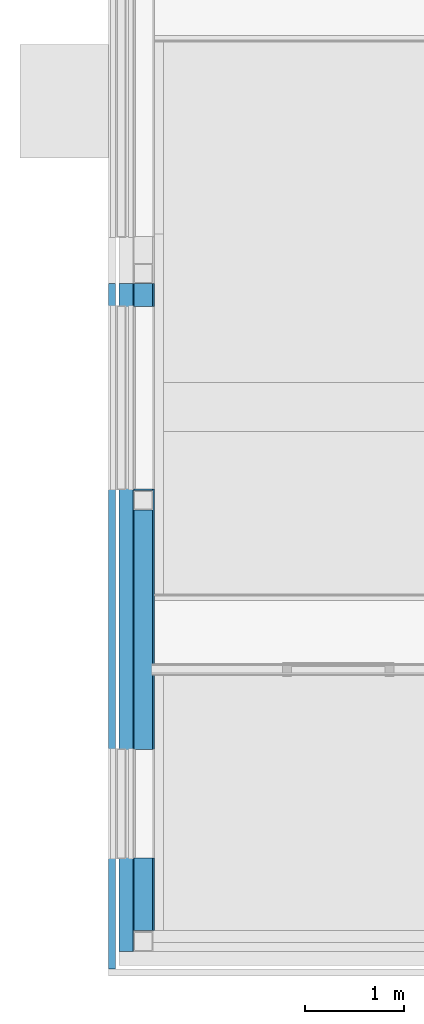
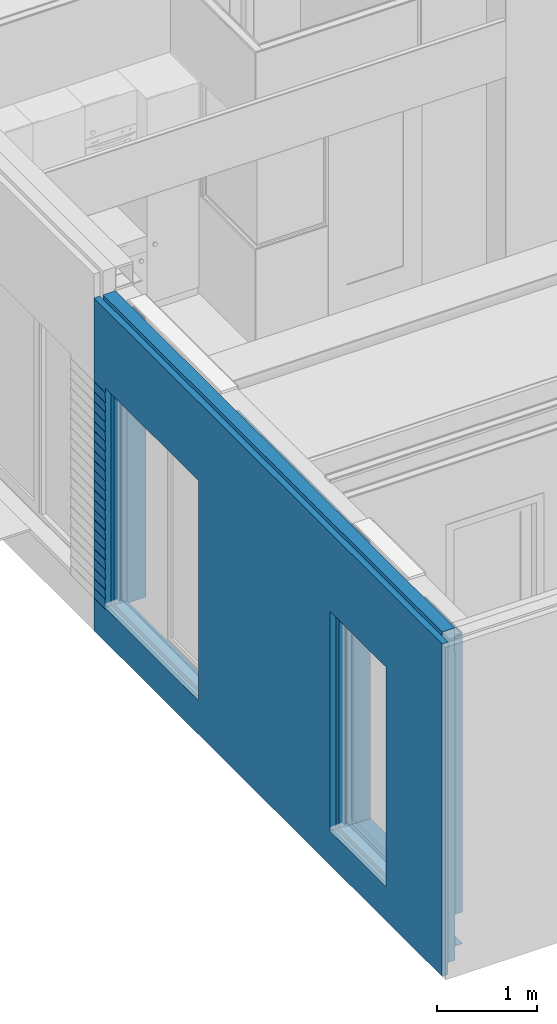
# One storey, part 36 of 165: 3 building element parts, 2 openings, 1 element without a shape of its own.
"""IFC2X3 building model written with IfcOpenShell, lengths in millimetres."""

from ifc_helpers import new_model, entity, si_unit, converted_unit, derived_unit, money_unit, direction, frame, origin_with_axes, place, context, subcontext, project, spatial, faceted_brep, material, type_object, element, aggregate, save


model = new_model("IFC2X3")

# Units and contexts
model_context = context("Model", 3, precision=0.01, world=origin_with_axes(), true_north=direction((0.0, 1.0)))
body_context = subcontext(model_context, "Body", "Model", "MODEL_VIEW")
ifc_project = project(units=[si_unit("LENGTHUNIT", "METRE", prefix="MILLI"), si_unit("AREAUNIT", "SQUARE_METRE"), si_unit("VOLUMEUNIT", "CUBIC_METRE"), converted_unit("PLANEANGLEUNIT", "DEGREE", entity("IfcPlaneAngleMeasure", 0.0174532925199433), si_unit("PLANEANGLEUNIT", "RADIAN"), dimensions=[0, 0, 0, 0, 0, 0, 0]), money_unit("EUR"), converted_unit("TIMEUNIT", "Year", entity("IfcTimeMeasure", 31556926.0), si_unit("TIMEUNIT", "SECOND"), dimensions=[0, 0, 1, 0, 0, 0, 0]), si_unit("MASSUNIT", "GRAM", prefix="KILO"), si_unit("THERMODYNAMICTEMPERATUREUNIT", "DEGREE_CELSIUS"), si_unit("LUMINOUSINTENSITYUNIT", "LUMEN"), si_unit("ENERGYUNIT", "JOULE", prefix="MEGA"), derived_unit("THERMALCONDUCTANCEUNIT", [(si_unit("POWERUNIT", "WATT"), 1), (si_unit("LENGTHUNIT", "METRE"), -1), (si_unit("THERMODYNAMICTEMPERATUREUNIT", "KELVIN"), -1)]), derived_unit("SPECIFICHEATCAPACITYUNIT", [(si_unit("ENERGYUNIT", "JOULE"), 1), (si_unit("MASSUNIT", "GRAM", prefix="KILO"), -1), (si_unit("THERMODYNAMICTEMPERATUREUNIT", "KELVIN"), -1)]), derived_unit("MASSDENSITYUNIT", [(si_unit("MASSUNIT", "GRAM", prefix="KILO"), 1), (si_unit("VOLUMEUNIT", "CUBIC_METRE"), -1)])], contexts=[model_context])

# Site, building, storey
site_placement = place(None, origin_with_axes())
site = spatial("IfcSite", under=ifc_project, at=site_placement, Name="Site", CompositionType="ELEMENT")
building_placement = place(site_placement, origin_with_axes())
building = spatial("IfcBuilding", under=site, at=building_placement, Name="Naam gebouw", CompositionType="ELEMENT")
storey_placement = place(building_placement, origin_with_axes())
storey = spatial("IfcBuildingStorey", under=building, at=storey_placement, Name="Begane grond", CompositionType="ELEMENT", Elevation=0.0)

# Wall, openings, building element parts
wall_type = type_object("IfcWallType", Name="21 Buitenwand spouwmuur 464", PredefinedType="NOTDEFINED")
wall_placement = place(storey_placement, frame((0.0, 0.0, -485.0), z_axis=(0.0, 0.0, 1.0), x_axis=(0.0, 1.0, 0.0)))
wall = element("IfcWall", 1, at=wall_placement, inside=storey, type_object=wall_type, Name="21_Wand-x")
opening_1_placement = place(wall_placement, frame((5619.999999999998, 0.0, 475.0), z_axis=(0.0, 0.0, 1.0), x_axis=(1.0, 0.0, 0.0)))
element("IfcOpeningElement", 2, at=opening_1_placement, cuts=wall, Name="_Merk AG", context=body_context, shape_type="Brep", body=[
    faceted_brep([(924.9999999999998, 0.0, -60.00000000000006), (924.9999999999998, 0.0, 2620.0), (924.9999999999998, 0.0, 3620.0), (924.9999999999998, -215.0000000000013, 3620.0), (924.9999999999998, -215.0000000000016, -1060.0), (924.9999999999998, 0.0, -1060.0), (924.9999999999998, 72.00000000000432, -60.00000000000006), (924.9999999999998, 72.00000000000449, 2620.0), (-924.9999999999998, 0.0, 2620.0), (-924.9999999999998, 0.0, 3620.0), (-924.9999999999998, -215.0000000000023, 3620.0), (-924.9999999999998, -215.0000000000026, -1060.0), (-924.9999999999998, 0.0, -1060.0), (-924.9999999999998, 0.0, -60.00000000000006), (-924.9999999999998, 72.00000000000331, -60.00000000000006), (934.9999999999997, 72.00000000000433, -60.00000000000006), (934.9999999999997, 72.0000000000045, 2620.0), (-924.9999999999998, 72.00000000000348, 2620.0), (-934.9999999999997, 72.0000000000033, -60.00000000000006), (-934.9999999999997, 251.0000000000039, -60.00000000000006), (934.9999999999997, 251.0000000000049, -60.00000000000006), (934.9999999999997, 251.0000000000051, 2620.0), (-934.9999999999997, 251.0000000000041, 2620.0), (-934.9999999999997, 72.0000000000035, 2620.0)], [[[0, 1, 2, 3, 4, 5]], [[1, 0, 6, 7]], [[1, 8, 9, 2]], [[2, 9, 10, 3]], [[10, 11, 4, 3]], [[12, 5, 4, 11]], [[13, 0, 5, 12]], [[0, 13, 14, 6]], [[7, 6, 15, 16]], [[8, 1, 7, 17]], [[8, 13, 12, 11, 10, 9]], [[13, 8, 17, 14]], [[6, 14, 18, 19, 20, 15]], [[16, 15, 20, 21]], [[17, 7, 16, 21, 22, 23]], [[14, 17, 23, 18]], [[18, 23, 22, 19]], [[21, 20, 19, 22]]]),
])
opening_2_placement = place(wall_placement, frame((1500.0, 0.0, 475.0), z_axis=(0.0, 0.0, 1.0), x_axis=(1.0, 0.0, 0.0)))
element("IfcOpeningElement", 3, at=opening_2_placement, cuts=wall, Name="_Merk AD", context=body_context, shape_type="Brep", body=[
    faceted_brep([(549.9999999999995, 0.0, -60.00000000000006), (549.9999999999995, 0.0, 2620.000000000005), (549.9999999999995, 0.0, 3620.000000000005), (549.9999999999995, -215.0000000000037, 3620.000000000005), (549.9999999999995, -215.0000000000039, -60.00000000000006), (549.9999999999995, 72.0000000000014, -60.00000000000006), (549.9999999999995, 72.00000000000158, 2620.000000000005), (-550.0, 0.0, 2620.000000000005), (-550.0, 0.0, 3620.000000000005), (-549.9999999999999, -215.0000000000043, 3620.000000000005), (-549.9999999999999, -215.0000000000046, -60.00000000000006), (-550.0, 0.0, -60.00000000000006), (-550.0, 72.00000000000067, -60.00000000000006), (559.9999999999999, 72.00000000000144, -60.00000000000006), (559.9999999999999, 72.00000000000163, 2620.000000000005), (-550.0, 72.00000000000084, 2620.000000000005), (-560.0, 72.00000000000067, -60.00000000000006), (-560.0000000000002, 251.0000000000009, -60.00000000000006), (559.9999999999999, 251.0000000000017, -60.00000000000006), (559.9999999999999, 251.0000000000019, 2620.000000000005), (-560.0000000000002, 251.0000000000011, 2620.000000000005), (-560.0, 72.00000000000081, 2620.000000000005)], [[[0, 1, 2, 3, 4]], [[1, 0, 5, 6]], [[1, 7, 8, 2]], [[2, 8, 9, 3]], [[9, 10, 4, 3]], [[0, 4, 10, 11, 12, 5]], [[6, 5, 13, 14]], [[7, 1, 6, 15]], [[7, 11, 10, 9, 8]], [[11, 7, 15, 12]], [[5, 12, 16, 17, 18, 13]], [[14, 13, 18, 19]], [[15, 6, 14, 19, 20, 21]], [[12, 15, 21, 16]], [[16, 21, 20, 17]], [[19, 18, 17, 20]]]),
])
ifc_material_1 = material(Name="Isolatie - Steenwol zacht")
building_element_part_1_placement = place(wall_placement, origin_with_axes())
building_element_part_1 = element("IfcBuildingElementPart", 4, at=building_element_part_1_placement, material=ifc_material_1, Name="Isolatie - Steenwol zacht", context=body_context, shape_type="Brep", body=[
    faceted_brep([(2060.0, 72.00000000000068, 414.9999999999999), (2049.999999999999, 72.00000000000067, 414.9999999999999), (2049.999999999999, 72.00000000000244, 3095.000000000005), (2060.0, 72.00000000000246, 3095.000000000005), (939.9999999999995, 71.99999999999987, 414.9999999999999), (949.9999999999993, 71.99999999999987, 414.9999999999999), (2060.0, 145.0000000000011, 414.9999999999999), (939.9999999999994, 145.0000000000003, 414.9999999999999), (2049.999999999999, 0.0, 414.9999999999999), (2049.999999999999, 0.0, 3095.000000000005), (949.9999999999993, 72.00000000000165, 3095.000000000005), (939.9999999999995, 72.00000000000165, 3095.000000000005), (939.9999999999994, 145.0000000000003, 3095.000000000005), (2060.0, 145.0000000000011, 3095.000000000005), (949.9999999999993, 0.0, 414.9999999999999), (6779.999999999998, 145.0000000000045, 4055.0), (6779.999999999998, 145.0000000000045, 0.0), (0.0, 144.9999999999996, 0.0), (0.0, 144.9999999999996, 4055.0), (6554.999999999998, 145.0000000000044, 3095.0), (4684.999999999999, 145.000000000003, 3095.0), (4684.999999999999, 145.000000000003, 414.9999999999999), (6554.999999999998, 145.0000000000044, 414.9999999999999), (0.0, 0.0, 0.0), (6779.999999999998, 0.0, 0.0), (6779.999999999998, 0.0, 3775.0), (-1.385558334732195e-10, 0.0, 3775.0), (4694.999999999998, 0.0, 3095.0), (6544.999999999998, 0.0, 3095.0), (6544.999999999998, 0.0, 414.9999999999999), (4694.999999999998, 0.0, 414.9999999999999), (949.9999999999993, 0.0, 3095.000000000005), (6779.999999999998, 1.000000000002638, 4055.0), (6779.999999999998, 1.000000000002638, 3790.0), (6779.999999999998, 16.0000000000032, 3790.0), (6779.999999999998, 16.0000000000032, 3775.0), (-1.403439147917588e-10, 15.99999999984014, 3775.0), (-1.403439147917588e-10, 15.99999999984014, 3790.0), (-1.403329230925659e-10, 0.99999999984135, 3790.0), (-1.403329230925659e-10, 0.99999999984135, 4055.0), (6554.999999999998, 72.00000000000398, 3095.0), (6544.999999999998, 72.00000000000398, 3095.0), (4694.999999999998, 72.00000000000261, 3095.0), (4684.999999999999, 72.0000000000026, 3095.0), (4684.999999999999, 72.0000000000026, 414.9999999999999), (4694.999999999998, 72.00000000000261, 414.9999999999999), (6544.999999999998, 72.00000000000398, 414.9999999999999), (6554.999999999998, 72.00000000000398, 414.9999999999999)], [[[0, 1, 2, 3]], [[4, 5, 1, 0, 6, 7]], [[1, 8, 9, 2]], [[3, 2, 10, 11, 12, 13]], [[13, 6, 0, 3]], [[11, 10, 5, 4]], [[5, 14, 8, 1]], [[15, 16, 17, 18], [19, 20, 21, 22], [7, 6, 13, 12]], [[7, 12, 11, 4]], [[23, 24, 25, 26], [27, 28, 29, 30], [8, 14, 31, 9]], [[2, 9, 31, 10]], [[10, 31, 14, 5]], [[25, 24, 16, 15, 32, 33, 34, 35]], [[16, 24, 23, 17]], [[18, 17, 23, 26, 36, 37, 38, 39]], [[15, 18, 39, 32]], [[40, 41, 42, 43, 20, 19]], [[43, 44, 21, 20]], [[44, 45, 46, 47, 22, 21]], [[47, 40, 19, 22]], [[35, 36, 26, 25]], [[27, 42, 41, 28]], [[28, 41, 46, 29]], [[29, 46, 45, 30]], [[30, 45, 42, 27]], [[39, 38, 33, 32]], [[38, 37, 34, 33]], [[37, 36, 35, 34]], [[41, 40, 47, 46]], [[45, 44, 43, 42]]]),
])
ifc_material_2 = material(Name="Steen - Baksteen")
building_element_part_2_placement = place(wall_placement, origin_with_axes())
building_element_part_2 = element("IfcBuildingElementPart", 5, at=building_element_part_2_placement, material=ifc_material_2, Name="Steen - Baksteen", context=body_context, shape_type="Brep", body=[
    faceted_brep([(6779.999999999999, 250.0000000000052, 3035.000036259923), (6779.999999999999, 245.0000077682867, 3035.000036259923), (6779.999999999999, 245.0000077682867, 3095.000008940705), (6779.999999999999, 250.0000000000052, 3095.000008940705), (6779.999999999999, 250.0000000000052, 4055.0), (6779.999999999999, 180.0000000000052, 4055.0), (6779.999999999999, 180.000000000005, 0.0), (6779.999999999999, 250.000000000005, 0.0), (6779.999999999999, 250.000000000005, 395.0000313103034), (6779.999999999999, 245.0000077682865, 395.0000313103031), (6779.999999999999, 245.0000077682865, 465.0000396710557), (6779.999999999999, 250.000000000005, 465.0000396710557), (6779.999999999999, 250.0000000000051, 514.9999766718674), (6779.999999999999, 245.0000077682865, 514.9999766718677), (6779.999999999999, 245.0000077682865, 584.999944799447), (6779.999999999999, 250.0000000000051, 584.999944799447), (6779.999999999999, 250.0000000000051, 635.0000427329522), (6779.999999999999, 245.0000077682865, 635.0000427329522), (6779.999999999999, 245.0000077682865, 705.0000108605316), (6779.999999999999, 250.0000000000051, 705.0000108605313), (6779.999999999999, 250.0000000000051, 754.9999478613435), (6779.999999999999, 245.0000077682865, 754.9999478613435), (6779.999999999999, 245.0000077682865, 824.9999562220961), (6779.999999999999, 250.0000000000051, 824.9999562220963), (6779.999999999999, 250.0000000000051, 875.0000139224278), (6779.999999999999, 245.0000077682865, 875.0000139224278), (6779.999999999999, 245.0000077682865, 945.0000222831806), (6779.999999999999, 250.0000000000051, 945.0000222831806), (6779.999999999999, 250.0000000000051, 994.999999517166), (6779.999999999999, 245.0000077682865, 994.9999995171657), (6779.999999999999, 245.0000077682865, 1064.999927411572), (6779.999999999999, 250.0000000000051, 1064.999927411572), (6779.999999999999, 250.0000000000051, 1115.000025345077), (6779.999999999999, 245.0000077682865, 1115.000025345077), (6779.999999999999, 245.0000077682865, 1184.999993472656), (6779.999999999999, 250.0000000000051, 1184.999993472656), (6779.999999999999, 250.0000000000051, 1234.999970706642), (6779.999999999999, 245.0000077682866, 1234.999970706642), (6779.999999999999, 245.0000077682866, 1304.999979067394), (6779.999999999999, 250.0000000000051, 1304.999979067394), (6779.999999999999, 250.0000000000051, 1354.999996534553), (6779.999999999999, 245.0000077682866, 1354.999996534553), (6779.999999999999, 245.0000077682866, 1425.000004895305), (6779.999999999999, 250.0000000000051, 1425.000004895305), (6779.999999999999, 250.0000000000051, 1474.99998212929), (6779.999999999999, 245.0000077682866, 1474.999982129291), (6779.999999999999, 245.0000077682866, 1544.99995025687), (6779.999999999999, 250.0000000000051, 1544.99995025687), (6779.999999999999, 250.0000000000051, 1595.000007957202), (6779.999999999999, 245.0000077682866, 1595.000007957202), (6779.999999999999, 245.0000077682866, 1664.999976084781), (6779.999999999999, 250.0000000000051, 1664.999976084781), (6779.999999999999, 250.0000000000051, 1714.999993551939), (6779.999999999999, 245.0000077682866, 1714.999993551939), (6779.999999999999, 245.0000077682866, 1784.999961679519), (6779.999999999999, 250.0000000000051, 1784.999961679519), (6779.999999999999, 250.0000000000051, 1835.000019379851), (6779.999999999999, 245.0000077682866, 1835.000019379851), (6779.999999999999, 245.0000077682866, 1905.000027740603), (6779.999999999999, 250.0000000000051, 1905.000027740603), (6779.999999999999, 250.0000000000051, 1954.999964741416), (6779.999999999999, 245.0000077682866, 1954.999964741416), (6779.999999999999, 245.0000077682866, 2024.999973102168), (6779.999999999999, 250.0000000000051, 2024.999973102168), (6779.999999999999, 250.0000000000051, 2075.0000308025), (6779.999999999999, 245.0000077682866, 2075.0000308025), (6779.999999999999, 245.0000077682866, 2144.99999893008), (6779.999999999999, 250.0000000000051, 2144.99999893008), (6779.999999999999, 250.0000000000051, 2194.999976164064), (6779.999999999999, 245.0000077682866, 2194.999976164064), (6779.999999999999, 245.0000077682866, 2264.999944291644), (6779.999999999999, 250.0000000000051, 2264.999944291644), (6779.999999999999, 250.0000000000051, 2315.000001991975), (6779.999999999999, 245.0000077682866, 2315.000001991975), (6779.999999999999, 245.0000077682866, 2385.000010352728), (6779.999999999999, 250.0000000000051, 2385.000010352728), (6779.999999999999, 250.0000000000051, 2434.999987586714), (6779.999999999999, 245.0000077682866, 2434.999987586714), (6779.999999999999, 245.0000077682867, 2504.999995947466), (6779.999999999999, 250.0000000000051, 2504.999995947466), (6779.999999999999, 250.0000000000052, 2555.000013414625), (6779.999999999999, 245.0000077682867, 2555.000013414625), (6779.999999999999, 245.0000077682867, 2625.000021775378), (6779.999999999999, 250.0000000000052, 2625.000021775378), (6779.999999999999, 250.0000000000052, 2674.999999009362), (6779.999999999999, 245.0000077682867, 2674.999999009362), (6779.999999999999, 245.0000077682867, 2744.999967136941), (6779.999999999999, 250.0000000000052, 2744.999967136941), (6779.999999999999, 250.0000000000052, 2795.000024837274), (6779.999999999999, 245.0000077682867, 2795.000024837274), (6779.999999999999, 245.0000077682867, 2864.999992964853), (6779.999999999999, 250.0000000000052, 2864.999992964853), (6779.999999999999, 250.0000000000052, 2914.999970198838), (6779.999999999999, 245.0000077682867, 2914.999970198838), (6779.999999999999, 245.0000077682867, 2984.999978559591), (6779.999999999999, 250.0000000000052, 2984.999978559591), (6554.999999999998, 250.000000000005, 3035.000036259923), (6554.999999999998, 245.0000077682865, 3035.000036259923), (6554.999999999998, 245.0000077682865, 3095.000008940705), (6554.999999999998, 250.000000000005, 3095.000008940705), (6554.999999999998, 180.000000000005, 3095.0), (4684.999999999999, 180.0000000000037, 3095.0), (4684.999999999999, 250.0000000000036, 3095.0), (4684.999999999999, 250.0000000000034, 414.9999999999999), (6544.999999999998, 250.0000000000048, 414.9999999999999), (6544.999999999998, 250.0000000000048, 395.0000313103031), (-180.0000000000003, 249.9999999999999, 0.0), (-180.0000000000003, 250.0000000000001, 4055.0), (939.9999999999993, 250.0000000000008, 3095.000000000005), (939.9999999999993, 250.0000000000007, 414.9999999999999), (2060.0, 250.0000000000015, 414.9999999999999), (2060.0, 250.0000000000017, 3095.000000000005), (-180.0000000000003, 180.0000000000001, 4055.0), (-180.0000000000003, 179.9999999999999, 0.0), (4684.999999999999, 180.0000000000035, 414.9999999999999), (6554.999999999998, 180.0000000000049, 414.9999999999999), (2060.0, 180.0000000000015, 414.9999999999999), (939.9999999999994, 180.0000000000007, 414.9999999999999), (939.9999999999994, 180.0000000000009, 3095.000000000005), (2060.0, 180.0000000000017, 3095.000000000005), (6544.999999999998, 245.0000077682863, 395.0000313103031), (6544.999999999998, 245.0000077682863, 414.9999999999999), (6554.999999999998, 245.0000077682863, 414.9999999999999), (6554.999999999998, 245.0000077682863, 465.0000396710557), (6554.999999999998, 250.0000000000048, 465.0000396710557), (6554.999999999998, 250.0000000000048, 514.9999766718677), (6554.999999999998, 245.0000077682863, 514.9999766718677), (6554.999999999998, 245.0000077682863, 584.999944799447), (6554.999999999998, 250.0000000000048, 584.999944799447), (6554.999999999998, 250.0000000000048, 635.0000427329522), (6554.999999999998, 245.0000077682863, 635.0000427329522), (6554.999999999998, 245.0000077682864, 705.0000108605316), (6554.999999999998, 250.0000000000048, 705.0000108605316), (6554.999999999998, 250.0000000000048, 754.9999478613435), (6554.999999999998, 245.0000077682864, 754.9999478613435), (6554.999999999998, 245.0000077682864, 824.9999562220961), (6554.999999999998, 250.0000000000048, 824.9999562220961), (6554.999999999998, 250.0000000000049, 875.0000139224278), (6554.999999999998, 245.0000077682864, 875.0000139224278), (6554.999999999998, 245.0000077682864, 945.0000222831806), (6554.999999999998, 250.0000000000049, 945.0000222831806), (6554.999999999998, 250.0000000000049, 994.9999995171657), (6554.999999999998, 245.0000077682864, 994.9999995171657), (6554.999999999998, 245.0000077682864, 1064.999927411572), (6554.999999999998, 250.0000000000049, 1064.999927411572), (6554.999999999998, 250.0000000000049, 1115.000025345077), (6554.999999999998, 245.0000077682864, 1115.000025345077), (6554.999999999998, 245.0000077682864, 1184.999993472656), (6554.999999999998, 250.0000000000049, 1184.999993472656), (6554.999999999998, 250.0000000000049, 1234.999970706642), (6554.999999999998, 245.0000077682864, 1234.999970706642), (6554.999999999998, 245.0000077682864, 1304.999979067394), (6554.999999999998, 250.0000000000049, 1304.999979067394), (6554.999999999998, 250.0000000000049, 1354.999996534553), (6554.999999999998, 245.0000077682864, 1354.999996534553), (6554.999999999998, 245.0000077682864, 1425.000004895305), (6554.999999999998, 250.0000000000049, 1425.000004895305), (6554.999999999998, 250.0000000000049, 1474.999982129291), (6554.999999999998, 245.0000077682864, 1474.999982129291), (6554.999999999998, 245.0000077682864, 1544.99995025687), (6554.999999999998, 250.0000000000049, 1544.99995025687), (6554.999999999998, 250.0000000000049, 1595.000007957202), (6554.999999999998, 245.0000077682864, 1595.000007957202), (6554.999999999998, 245.0000077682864, 1664.999976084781), (6554.999999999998, 250.0000000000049, 1664.999976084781), (6554.999999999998, 250.0000000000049, 1714.999993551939), (6554.999999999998, 245.0000077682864, 1714.999993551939), (6554.999999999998, 245.0000077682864, 1784.999961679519), (6554.999999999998, 250.0000000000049, 1784.999961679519), (6554.999999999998, 250.0000000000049, 1835.000019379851), (6554.999999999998, 245.0000077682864, 1835.000019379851), (6554.999999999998, 245.0000077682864, 1905.000027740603), (6554.999999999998, 250.0000000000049, 1905.000027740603), (6554.999999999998, 250.0000000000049, 1954.999964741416), (6554.999999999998, 245.0000077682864, 1954.999964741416), (6554.999999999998, 245.0000077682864, 2024.999973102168), (6554.999999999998, 250.0000000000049, 2024.999973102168), (6554.999999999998, 250.0000000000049, 2075.0000308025), (6554.999999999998, 245.0000077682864, 2075.0000308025), (6554.999999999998, 245.0000077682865, 2144.99999893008), (6554.999999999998, 250.0000000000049, 2144.99999893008), (6554.999999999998, 250.0000000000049, 2194.999976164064), (6554.999999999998, 245.0000077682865, 2194.999976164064), (6554.999999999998, 245.0000077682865, 2264.999944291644), (6554.999999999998, 250.0000000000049, 2264.999944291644), (6554.999999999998, 250.0000000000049, 2315.000001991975), (6554.999999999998, 245.0000077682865, 2315.000001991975), (6554.999999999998, 245.0000077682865, 2385.000010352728), (6554.999999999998, 250.0000000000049, 2385.000010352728), (6554.999999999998, 250.0000000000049, 2434.999987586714), (6554.999999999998, 245.0000077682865, 2434.999987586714), (6554.999999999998, 245.0000077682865, 2504.999995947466), (6554.999999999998, 250.0000000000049, 2504.999995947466), (6554.999999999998, 250.0000000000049, 2555.000013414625), (6554.999999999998, 245.0000077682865, 2555.000013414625), (6554.999999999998, 245.0000077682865, 2625.000021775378), (6554.999999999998, 250.0000000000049, 2625.000021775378), (6554.999999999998, 250.000000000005, 2674.999999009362), (6554.999999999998, 245.0000077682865, 2674.999999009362), (6554.999999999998, 245.0000077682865, 2744.999967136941), (6554.999999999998, 250.000000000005, 2744.999967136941), (6554.999999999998, 250.000000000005, 2795.000024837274), (6554.999999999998, 245.0000077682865, 2795.000024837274), (6554.999999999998, 245.0000077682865, 2864.999992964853), (6554.999999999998, 250.000000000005, 2864.999992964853), (6554.999999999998, 250.000000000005, 2914.999970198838), (6554.999999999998, 245.0000077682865, 2914.999970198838), (6554.999999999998, 245.0000077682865, 2984.999978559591), (6554.999999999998, 250.000000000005, 2984.999978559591)], [[[0, 1, 2, 3, 4, 5, 6, 7, 8, 9, 10, 11, 12, 13, 14, 15, 16, 17, 18, 19, 20, 21, 22, 23, 24, 25, 26, 27, 28, 29, 30, 31, 32, 33, 34, 35, 36, 37, 38, 39, 40, 41, 42, 43, 44, 45, 46, 47, 48, 49, 50, 51, 52, 53, 54, 55, 56, 57, 58, 59, 60, 61, 62, 63, 64, 65, 66, 67, 68, 69, 70, 71, 72, 73, 74, 75, 76, 77, 78, 79, 80, 81, 82, 83, 84, 85, 86, 87, 88, 89, 90, 91, 92, 93, 94, 95]], [[1, 0, 96, 97]], [[2, 1, 97, 98]], [[99, 3, 2, 98, 100, 101, 102]], [[3, 99, 102, 103, 104, 105, 8, 7, 106, 107, 4], [108, 109, 110, 111]], [[4, 107, 112, 5]], [[5, 112, 113, 6], [114, 101, 100, 115], [116, 117, 118, 119]], [[6, 113, 106, 7]], [[9, 8, 105, 120]], [[10, 9, 120, 121, 122, 123]], [[11, 10, 123, 124]], [[125, 12, 11, 124]], [[13, 12, 125, 126]], [[14, 13, 126, 127]], [[15, 14, 127, 128]], [[129, 16, 15, 128]], [[17, 16, 129, 130]], [[18, 17, 130, 131]], [[19, 18, 131, 132]], [[133, 20, 19, 132]], [[21, 20, 133, 134]], [[22, 21, 134, 135]], [[23, 22, 135, 136]], [[137, 24, 23, 136]], [[25, 24, 137, 138]], [[26, 25, 138, 139]], [[27, 26, 139, 140]], [[141, 28, 27, 140]], [[29, 28, 141, 142]], [[30, 29, 142, 143]], [[31, 30, 143, 144]], [[145, 32, 31, 144]], [[33, 32, 145, 146]], [[34, 33, 146, 147]], [[35, 34, 147, 148]], [[149, 36, 35, 148]], [[37, 36, 149, 150]], [[38, 37, 150, 151]], [[39, 38, 151, 152]], [[153, 40, 39, 152]], [[41, 40, 153, 154]], [[42, 41, 154, 155]], [[43, 42, 155, 156]], [[157, 44, 43, 156]], [[45, 44, 157, 158]], [[46, 45, 158, 159]], [[47, 46, 159, 160]], [[161, 48, 47, 160]], [[49, 48, 161, 162]], [[50, 49, 162, 163]], [[51, 50, 163, 164]], [[165, 52, 51, 164]], [[53, 52, 165, 166]], [[54, 53, 166, 167]], [[55, 54, 167, 168]], [[169, 56, 55, 168]], [[57, 56, 169, 170]], [[58, 57, 170, 171]], [[59, 58, 171, 172]], [[173, 60, 59, 172]], [[61, 60, 173, 174]], [[62, 61, 174, 175]], [[63, 62, 175, 176]], [[177, 64, 63, 176]], [[65, 64, 177, 178]], [[66, 65, 178, 179]], [[67, 66, 179, 180]], [[181, 68, 67, 180]], [[69, 68, 181, 182]], [[70, 69, 182, 183]], [[71, 70, 183, 184]], [[185, 72, 71, 184]], [[73, 72, 185, 186]], [[74, 73, 186, 187]], [[75, 74, 187, 188]], [[189, 76, 75, 188]], [[77, 76, 189, 190]], [[78, 77, 190, 191]], [[79, 78, 191, 192]], [[193, 80, 79, 192]], [[81, 80, 193, 194]], [[82, 81, 194, 195]], [[83, 82, 195, 196]], [[197, 84, 83, 196]], [[85, 84, 197, 198]], [[86, 85, 198, 199]], [[87, 86, 199, 200]], [[201, 88, 87, 200]], [[89, 88, 201, 202]], [[90, 89, 202, 203]], [[91, 90, 203, 204]], [[205, 92, 91, 204]], [[93, 92, 205, 206]], [[94, 93, 206, 207]], [[95, 94, 207, 208]], [[96, 0, 95, 208]], [[97, 96, 208, 207, 206, 205, 204, 203, 202, 201, 200, 199, 198, 197, 196, 195, 194, 193, 192, 191, 190, 189, 188, 187, 186, 185, 184, 183, 182, 181, 180, 179, 178, 177, 176, 175, 174, 173, 172, 171, 170, 169, 168, 167, 166, 165, 164, 163, 162, 161, 160, 159, 158, 157, 156, 155, 154, 153, 152, 151, 150, 149, 148, 147, 146, 145, 144, 143, 142, 141, 140, 139, 138, 137, 136, 135, 134, 133, 132, 131, 130, 129, 128, 127, 126, 125, 124, 123, 122, 115, 100, 98]], [[101, 114, 103, 102]], [[121, 104, 103, 114, 115, 122]], [[104, 121, 120, 105]], [[107, 106, 113, 112]], [[108, 118, 117, 109]], [[109, 117, 116, 110]], [[110, 116, 119, 111]], [[111, 119, 118, 108]]]),
])
ifc_material_3 = material(Name="Steen - Kalkzandsteen C")
building_element_part_3_placement = place(wall_placement, origin_with_axes())
building_element_part_3 = element("IfcBuildingElementPart", 6, at=building_element_part_3_placement, material=ifc_material_3, Name="Steen - Kalkzandsteen C", context=body_context, shape_type="Brep", body=[
    faceted_brep([(4694.999999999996, 0.0, 5.000000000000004), (4694.999999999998, -213.999999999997, 5.000000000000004), (4694.999999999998, -213.999999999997, 0.0), (4694.999999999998, 0.0, 0.0), (214.0000000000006, -214.0000000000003, 5.000000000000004), (4679.999999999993, 0.0, 5.000000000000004), (4679.999999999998, -199.9999999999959, 5.000000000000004), (4479.999999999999, -199.999999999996, 5.000000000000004), (4480.0, 0.0, 5.000000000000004), (214.0000000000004, 0.0, 5.000000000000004), (214.0000000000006, -214.0000000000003, 0.0), (214.0000000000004, 0.0, 0.0)], [[[0, 1, 2, 3]], [[4, 1, 0, 5, 6, 7, 8, 9]], [[1, 4, 10, 2]], [[3, 2, 10, 11]], [[5, 0, 3, 11, 9, 8]], [[6, 5, 8, 7]], [[4, 9, 11, 10]]]),
    faceted_brep([(6779.999999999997, 0.0, 5.000000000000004), (6779.999999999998, -213.9999999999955, 5.000000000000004), (6779.999999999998, -213.9999999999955, 0.0), (6779.999999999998, 0.0, 0.0), (6544.999999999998, -213.9999999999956, 5.000000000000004), (6544.999999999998, 0.0, 5.000000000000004), (6544.999999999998, -213.9999999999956, 0.0), (6544.999999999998, 0.0, 0.0)], [[[0, 1, 2, 3]], [[4, 1, 0, 5]], [[1, 4, 6, 2]], [[7, 3, 2, 6]], [[5, 0, 3, 7]], [[4, 5, 7, 6]]]),
    faceted_brep([(214.0000000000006, -214.0000000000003, 384.9999999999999), (4694.999999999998, -213.999999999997, 384.9999999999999), (4694.999999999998, -213.999999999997, 3775.0), (2049.999999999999, -213.9999999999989, 3775.0), (2049.999999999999, -213.9999999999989, 414.9999999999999), (949.9999999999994, -213.9999999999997, 414.9999999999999), (949.9999999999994, -213.9999999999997, 3775.0), (214.0000000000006, -213.9999999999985, 3775.0), (4694.999999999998, 0.0, 384.9999999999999), (214.0000000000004, 0.0, 384.9999999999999), (4479.999999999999, 0.0, 384.9999999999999), (4479.999999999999, -199.999999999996, 384.9999999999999), (4679.999999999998, -199.9999999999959, 384.9999999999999), (4679.999999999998, 0.0, 384.9999999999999), (4694.999999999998, 0.0, 3775.0), (4479.999999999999, 0.0, 3774.999999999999), (2049.999999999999, 0.0, 3774.999999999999), (4679.999999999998, 0.0, 3775.0), (4679.999999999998, -199.9999999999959, 3775.0), (4479.999999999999, -199.999999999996, 3775.0), (2049.999999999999, 0.0, 414.9999999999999), (949.9999999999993, 0.0, 414.9999999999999), (949.9999999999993, 0.0, 3774.999999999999), (214.0000000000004, -6.857432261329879e-08, 3775.0)], [[[0, 1, 2, 3, 4, 5, 6, 7]], [[8, 1, 0, 9, 10, 11, 12, 13]], [[1, 8, 14, 2]], [[15, 16, 3, 2, 14, 17, 18, 19]], [[20, 4, 3, 16]], [[21, 5, 4, 20]], [[21, 22, 6, 5]], [[7, 6, 22, 23]], [[9, 0, 7, 23]], [[10, 9, 23, 22, 21, 20, 16, 15]], [[11, 10, 15, 19]], [[12, 11, 19, 18]], [[13, 12, 18, 17]], [[8, 13, 17, 14]]]),
    faceted_brep([(6544.999999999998, -213.9999999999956, 384.9999999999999), (6779.999999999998, -213.9999999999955, 384.9999999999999), (6779.999999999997, -213.9999999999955, 3775.0), (6544.999999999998, -213.9999999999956, 3775.0), (6779.999999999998, 0.0, 384.9999999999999), (6544.999999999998, 0.0, 384.9999999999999), (6779.999999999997, -6.856951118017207e-08, 3775.0), (6544.999999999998, 0.0, 3775.0)], [[[0, 1, 2, 3]], [[4, 1, 0, 5]], [[1, 4, 6, 2]], [[3, 2, 6, 7]], [[5, 0, 3, 7]], [[4, 5, 7, 6]]]),
    faceted_brep([(949.9999999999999, -195.0000000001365, 3790.0), (949.9999999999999, -195.0000000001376, 3795.0), (214.0000000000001, -195.0000000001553, 3795.0), (214.0000000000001, -195.0000000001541, 3790.0), (949.9999999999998, -5.000000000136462, 3795.0), (949.9999999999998, -5.00000000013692, 3790.0), (214.0000000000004, -5.000000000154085, 3795.0), (214.0, -5.000000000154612, 3790.0)], [[[0, 1, 2, 3]], [[4, 1, 0, 5]], [[1, 4, 6, 2]], [[3, 2, 6, 7]], [[5, 0, 3, 7]], [[4, 5, 7, 6]]]),
    faceted_brep([(2050.0, -5.000000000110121, 3795.0), (2050.0, -195.0000000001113, 3795.0), (4479.999999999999, -195.0000000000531, 3795.0), (4479.999999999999, -5.000000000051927, 3795.0), (2050.0, -195.0000000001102, 3790.0), (2050.0, -5.000000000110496, 3790.0), (4479.999999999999, -195.0000000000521, 3790.0), (4479.999999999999, -5.000000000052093, 3790.0)], [[[0, 1, 2, 3]], [[4, 1, 0, 5]], [[1, 4, 6, 2]], [[2, 6, 7, 3]], [[5, 0, 3, 7]], [[4, 5, 7, 6]]]),
    faceted_brep([(4694.999999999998, -195.000000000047, 3790.0), (4694.999999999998, -195.000000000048, 3795.0), (4679.999999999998, -195.0000000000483, 3795.0), (4679.999999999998, -195.0000000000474, 3790.0), (4694.999999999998, -5.000000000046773, 3795.0), (4694.999999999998, -5.000000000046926, 3790.0), (4679.999999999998, -5.000000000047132, 3795.0), (4679.999999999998, -5.000000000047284, 3790.0)], [[[0, 1, 2, 3]], [[4, 1, 0, 5]], [[1, 4, 6, 2]], [[2, 6, 7, 3]], [[5, 0, 3, 7]], [[4, 5, 7, 6]]]),
    faceted_brep([(6544.999999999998, -5.000000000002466, 3795.0), (6544.999999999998, -195.0000000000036, 3795.0), (6779.999999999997, -194.999999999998, 3795.0), (6779.999999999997, -4.99999999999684, 3795.0), (6544.999999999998, -195.0000000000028, 3790.0), (6544.999999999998, -5.000000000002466, 3790.0), (6779.999999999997, -194.9999999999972, 3790.0), (6779.999999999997, -4.999999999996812, 3790.0)], [[[0, 1, 2, 3]], [[4, 1, 0, 5]], [[1, 4, 6, 2]], [[7, 3, 2, 6]], [[5, 0, 3, 7]], [[4, 5, 7, 6]]]),
    faceted_brep([(6779.999999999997, -213.9999999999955, 3795.0), (6779.999999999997, -200.9999999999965, 3795.0), (6544.999999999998, -201.0000000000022, 3795.0), (6544.999999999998, -213.9999999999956, 3795.0), (6779.999999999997, -213.9999999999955, 3790.0), (6779.999999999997, -200.9999999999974, 3790.0), (6544.999999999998, -201.000000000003, 3790.0), (6544.999999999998, -213.9999999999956, 3790.0)], [[[0, 1, 2, 3]], [[4, 5, 1, 0]], [[1, 5, 6, 2]], [[2, 6, 7, 3]], [[4, 0, 3, 7]], [[5, 4, 7, 6]]]),
    faceted_brep([(949.9999999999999, -213.9999999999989, 3790.0), (949.9999999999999, -213.9999999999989, 3795.0), (214.0000000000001, -213.9999999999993, 3795.0), (214.0000000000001, -213.9999999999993, 3790.0), (949.9999999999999, -201.0000000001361, 3795.0), (949.9999999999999, -201.0000000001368, 3790.0), (214.0000000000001, -201.0000000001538, 3795.0), (214.0000000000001, -201.0000000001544, 3790.0)], [[[0, 1, 2, 3]], [[4, 1, 0, 5]], [[1, 4, 6, 2]], [[2, 6, 7, 3]], [[5, 0, 3, 7]], [[4, 5, 7, 6]]]),
    faceted_brep([(2050.0, -201.0000000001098, 3795.0), (2050.0, -213.9999999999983, 3795.0), (4694.999999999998, -213.9999999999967, 3795.0), (4694.999999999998, -201.0000000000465, 3795.0), (2050.0, -213.9999999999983, 3790.0), (2050.0, -201.0000000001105, 3790.0), (4694.999999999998, -213.9999999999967, 3790.0), (4694.999999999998, -201.0000000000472, 3790.0)], [[[0, 1, 2, 3]], [[4, 1, 0, 5]], [[1, 4, 6, 2]], [[2, 6, 7, 3]], [[5, 0, 3, 7]], [[4, 5, 7, 6]]]),
])
aggregate(wall, [building_element_part_1, building_element_part_2, building_element_part_3])

save(model, "model.ifc")
